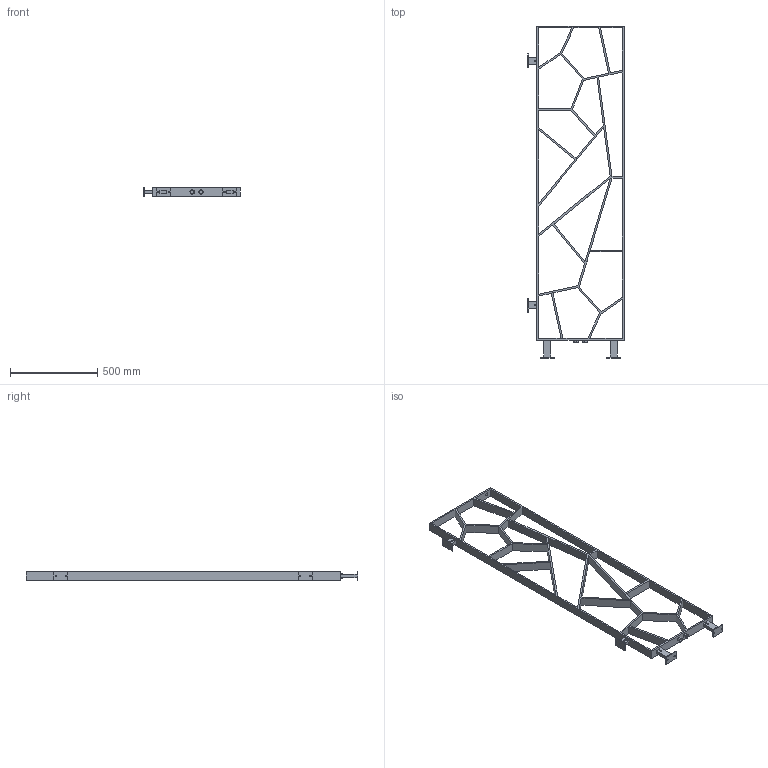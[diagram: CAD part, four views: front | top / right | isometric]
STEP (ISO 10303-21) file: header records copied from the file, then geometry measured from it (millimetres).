
FILE_DESCRIPTION (( 'STEP AP214' ), '1' );
FILE_NAME ('TRIA.STEP', '2020-08-31T08:28:00', ( 'termosan' ), ( '' ), 'SwSTEP 2.0', 'SolidWorks 2009', '' );
FILE_SCHEMA (( 'AUTOMOTIVE_DESIGN' ));
Length unit declared in the file: millimetre
Products named in the file (5): PASLANMAZ ZAGA ASKI P嵱; TRIA; TRIA ZEMÝN ASKI PARÇASI; TRIA DUVAR ASKI PARÇASI
Assembly tree (9 placements, depth 2):
  TRIA
    TRIA ZEMÝN ASKI PARÇASI  x2
    TRIA DUVAR ASKI PARÇASI  x2
    PASLANMAZ ZAGA ASKI P嵱  x4
    TRIA
Bounding box: 552 x 1902 x 50 mm (x, y, z)
Volume: 5437445.4 mm3; surface area: 1309245.7 mm2
Topology: 11 solids, 11 shells, 420 faces, 945 edges, 630 vertices
Faces by surface type: plane 214, cylinder 206
Entity records: 6521 total; most frequent: CARTESIAN_POINT 1185, DIRECTION 1077, ORIENTED_EDGE 1002, EDGE_CURVE 501, AXIS2_PLACEMENT_3D 366, LINE 345, VECTOR 345, VERTEX_POINT 334
